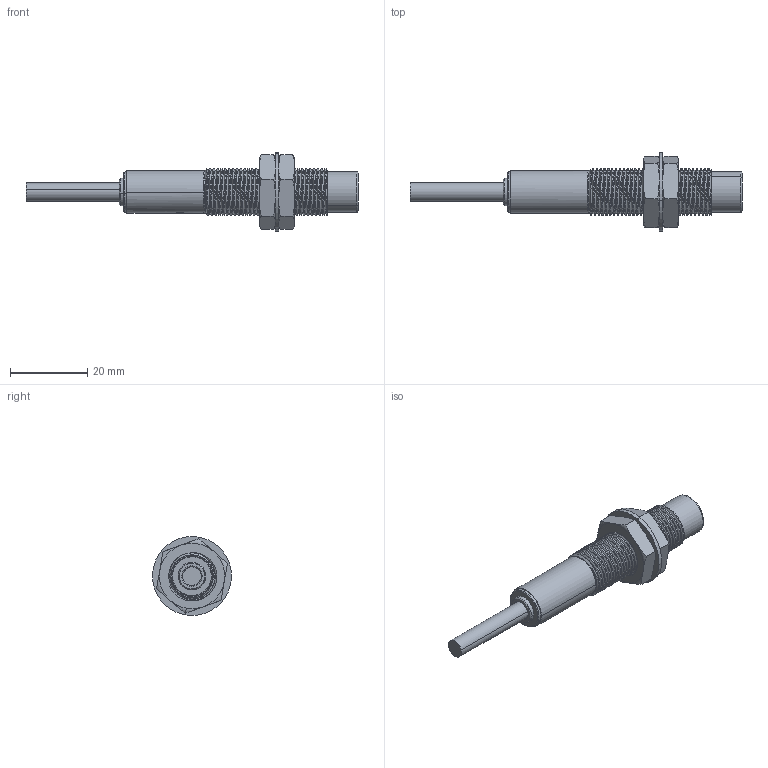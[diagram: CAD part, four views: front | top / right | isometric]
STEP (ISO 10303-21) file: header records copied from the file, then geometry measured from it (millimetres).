
FILE_DESCRIPTION (( 'STEP AP203' ), '1' );
FILE_NAME ('CN12P-D.STEP', '2025-09-04T07:39:33', ( '' ), ( '' ), 'SwSTEP 2.0', 'SolidWorks 2023', '' );
FILE_SCHEMA (( 'CONFIG_CONTROL_DESIGN' ));
Length unit declared in the file: millimetre
Products named in the file (1): CN12P-D
Bounding box: 86.19 x 20.48 x 20.48 mm (x, y, z)
Volume: 6562.7 mm3; surface area: 6348.1 mm2
Topology: 2 solids, 2 shells, 359 faces, 962 edges, 625 vertices
Faces by surface type: cylinder 197, plane 95, torus 44, cone 13, bspline 10
Entity records: 19430 total; most frequent: CARTESIAN_POINT 11299, ORIENTED_EDGE 1924, DIRECTION 1473, EDGE_CURVE 962, VERTEX_POINT 625, AXIS2_PLACEMENT_3D 558, EDGE_LOOP 383, ADVANCED_FACE 359
